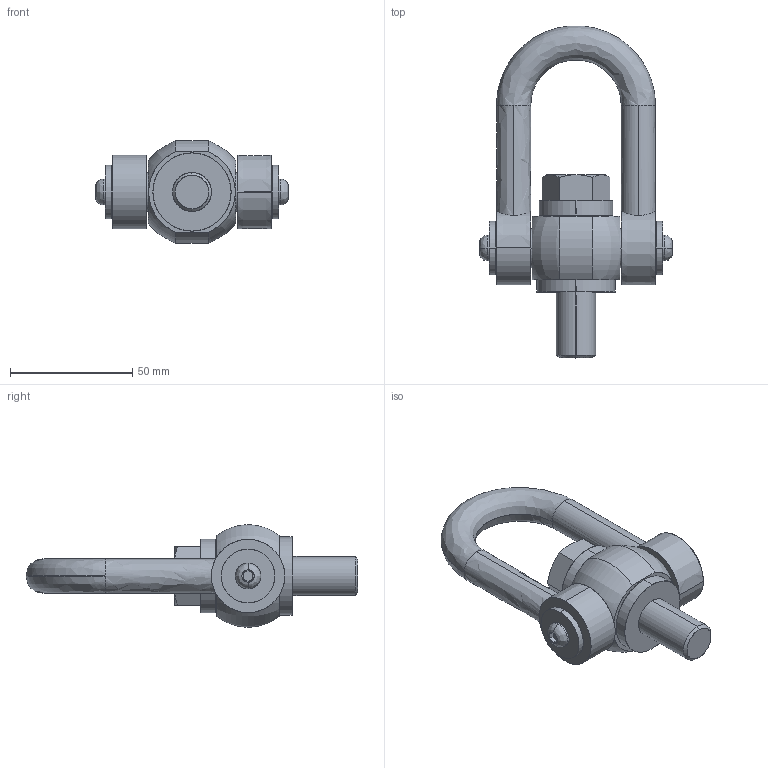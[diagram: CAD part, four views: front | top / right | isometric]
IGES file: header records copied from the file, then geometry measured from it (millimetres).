
Start section: SolidWorks IGES FILE using analytic representation for surfaces
Global section: file name: C:\Documents and Settings\user\デスクトップ\EB-903-16.IGS; native system: SolidWorks 2003 by SolidWorks Corporation; preprocessor: Version 5.3; author: user; date: 130725.104528; units: millimetre
Bounding box: 79 x 135.91 x 42 mm (x, y, z)
Surface area: 34063.1 mm2 (no closed solid volume)
Topology: 0 solids, 0 shells, 97 faces, 2118 edges, 2118 vertices
Faces by surface type: revolution 50, bspline 47
